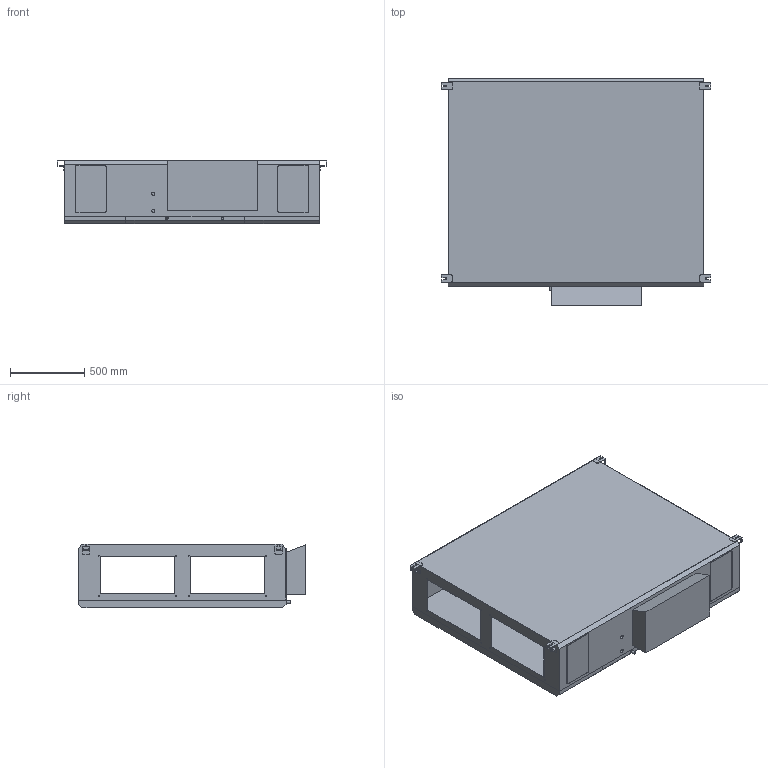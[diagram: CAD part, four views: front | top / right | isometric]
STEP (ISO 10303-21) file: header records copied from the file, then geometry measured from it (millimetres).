
FILE_DESCRIPTION(/* description */ (''),/* implementation_level */ '2;1');
FILE_NAME(/* name */ 'Z:\Output\AIR1_XC_1400_R-40117-001.stp',/* time_stamp */ '2021-03-12T16:27:40+01:00',/* author */ ('jaiminmpatel'),/* organization */ (''),/* preprocessor_version */ 'ST-DEVELOPER v17.2',/* originating_system */ 'Autodesk Inventor 2019',/* authorisation */ '');
FILE_SCHEMA (('AUTOMOTIVE_DESIGN { 1 0 10303 214 3 1 1 }'));
Length unit declared in the file: millimetre
Products named in the file (1): AIR1_XC_3200
Bounding box: 1811 x 1525 x 425 mm (x, y, z)
Volume: 150040066.1 mm3; surface area: 13947801.8 mm2
Topology: 1 solids, 1 shells, 243 faces, 732 edges, 488 vertices
Faces by surface type: plane 145, cylinder 98
Full cylindrical faces by diameter (mm): 6.647 x16, 15 x2, 17.5 x2, 20.96 x2
Entity records: 8407 total; most frequent: ORIENTED_EDGE 1464, CARTESIAN_POINT 1464, DIRECTION 1424, EDGE_CURVE 732, LINE 528, VECTOR 528, VERTEX_POINT 488, AXIS2_PLACEMENT_3D 448
